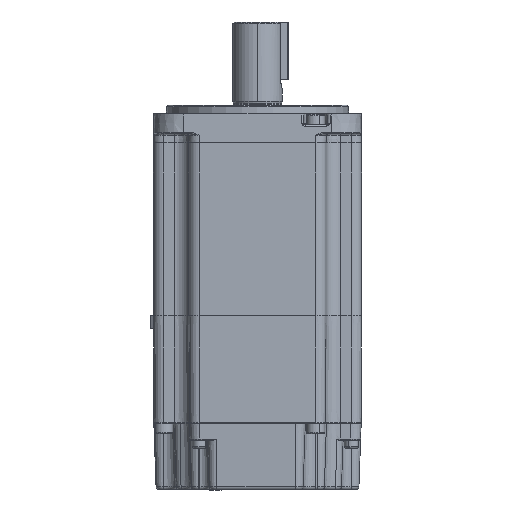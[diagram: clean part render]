
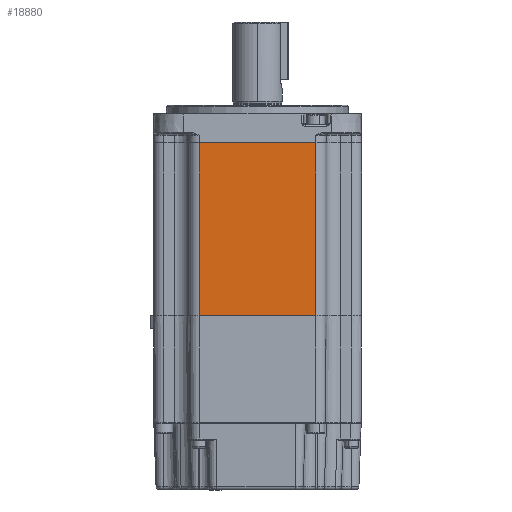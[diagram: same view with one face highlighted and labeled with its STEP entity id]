
A CAD part, front view. The second image highlights one B-rep face of the part: STEP entity #18880.
In plain terms, the highlighted planar face has unit normal (0, -1, 0).
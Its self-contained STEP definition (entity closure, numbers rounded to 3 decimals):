
#2630 = VERTEX_POINT ( 'NONE', #65972 ) ;
#3551 = DIRECTION ( 'NONE',  ( -1., 0., 0. ) ) ;
#4539 = ORIENTED_EDGE ( 'NONE', *, *, #32115, .F. ) ;
#5741 = CARTESIAN_POINT ( 'NONE',  ( 22.3, -40., 33.2 ) ) ;
#8324 = VECTOR ( 'NONE', #25973, 1000. ) ;
#9216 = FACE_OUTER_BOUND ( 'NONE', #25791, .T. ) ;
#10289 = CARTESIAN_POINT ( 'NONE',  ( -22.3, -40., 34.2 ) ) ;
#18641 = VECTOR ( 'NONE', #23413, 1000. ) ;
#18880 = ADVANCED_FACE ( 'NONE', ( #9216 ), #75128, .F. ) ;
#20758 = EDGE_CURVE ( 'NONE', #41607, #61747, #44565, .T. ) ;
#23413 = DIRECTION ( 'NONE',  ( 1., 0., 0. ) ) ;
#24226 = LINE ( 'NONE', #53259, #18641 ) ;
#25791 = EDGE_LOOP ( 'NONE', ( #71523, #69981, #4539, #74019 ) ) ;
#25973 = DIRECTION ( 'NONE',  ( 0., 0., -1. ) ) ;
#26949 = VERTEX_POINT ( 'NONE', #69026 ) ;
#28058 = VECTOR ( 'NONE', #69851, 1000. ) ;
#31651 = CARTESIAN_POINT ( 'NONE',  ( -22.3, -40., 34.2 ) ) ;
#32115 = EDGE_CURVE ( 'NONE', #2630, #41607, #24226, .T. ) ;
#32581 = LINE ( 'NONE', #62208, #36278 ) ;
#34510 = CARTESIAN_POINT ( 'NONE',  ( 22.3, -40., -33.2 ) ) ;
#36278 = VECTOR ( 'NONE', #3551, 1000. ) ;
#41607 = VERTEX_POINT ( 'NONE', #5741 ) ;
#44565 = LINE ( 'NONE', #58387, #28058 ) ;
#51508 = DIRECTION ( 'NONE',  ( 0., 1., 0. ) ) ;
#53259 = CARTESIAN_POINT ( 'NONE',  ( -22.3, -40., 33.2 ) ) ;
#53627 = EDGE_CURVE ( 'NONE', #2630, #26949, #70318, .T. ) ;
#57485 = DIRECTION ( 'NONE',  ( -1., 0., 0. ) ) ;
#57985 = EDGE_CURVE ( 'NONE', #61747, #26949, #32581, .T. ) ;
#58387 = CARTESIAN_POINT ( 'NONE',  ( 22.3, -40., 34.2 ) ) ;
#61747 = VERTEX_POINT ( 'NONE', #34510 ) ;
#62208 = CARTESIAN_POINT ( 'NONE',  ( -22.3, -40., -33.2 ) ) ;
#62432 = AXIS2_PLACEMENT_3D ( 'NONE', #10289, #51508, #57485 ) ;
#65972 = CARTESIAN_POINT ( 'NONE',  ( -22.3, -40., 33.2 ) ) ;
#69026 = CARTESIAN_POINT ( 'NONE',  ( -22.3, -40., -33.2 ) ) ;
#69851 = DIRECTION ( 'NONE',  ( 0., 0., -1. ) ) ;
#69981 = ORIENTED_EDGE ( 'NONE', *, *, #20758, .F. ) ;
#70318 = LINE ( 'NONE', #31651, #8324 ) ;
#71523 = ORIENTED_EDGE ( 'NONE', *, *, #57985, .F. ) ;
#74019 = ORIENTED_EDGE ( 'NONE', *, *, #53627, .T. ) ;
#75128 = PLANE ( 'NONE',  #62432 ) ;
